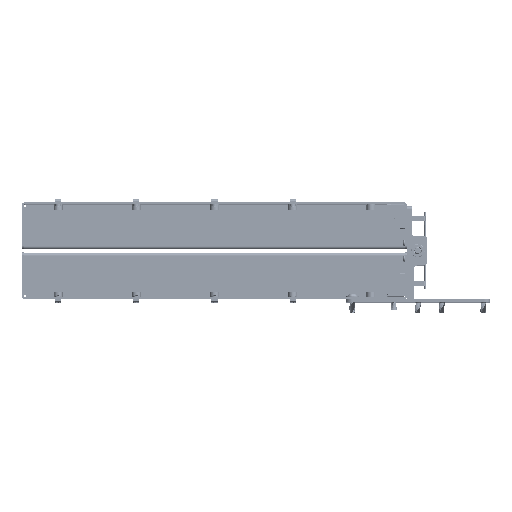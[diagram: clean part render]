
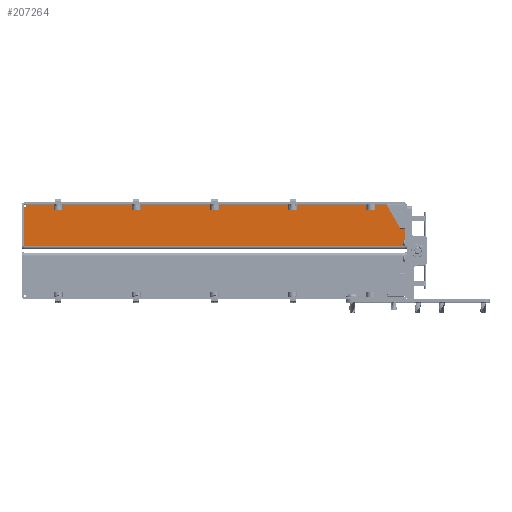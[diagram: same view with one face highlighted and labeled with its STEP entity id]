
A CAD part, top view. The second image highlights one B-rep face of the part: STEP entity #207264.
In plain terms, the highlighted planar face has unit normal (0, 0, 1).
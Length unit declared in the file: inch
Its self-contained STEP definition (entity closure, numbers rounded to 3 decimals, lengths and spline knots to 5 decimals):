
#2913 = ORIENTED_EDGE ( 'NONE', *, *, #162234, .T. ) ;
#9947 = CIRCLE ( 'NONE', #11935, 0.125 ) ;
#11111 = VERTEX_POINT ( 'NONE', #155735 ) ;
#11935 = AXIS2_PLACEMENT_3D ( 'NONE', #211654, #53029, #238163 ) ;
#14461 = CARTESIAN_POINT ( 'NONE',  ( -0.625, 2.18254, -2.4522 ) ) ;
#14703 = CARTESIAN_POINT ( 'NONE',  ( -16.19303, 3.919, -2.4522 ) ) ;
#15620 = DIRECTION ( 'NONE',  ( 0., -1., 0. ) ) ;
#15683 = DIRECTION ( 'NONE',  ( 0., 0., 1. ) ) ;
#16086 = CARTESIAN_POINT ( 'NONE',  ( -0.57, 3.794, -2.4522 ) ) ;
#19228 = DIRECTION ( 'NONE',  ( 0., -1., 0. ) ) ;
#23432 = VERTEX_POINT ( 'NONE', #26415 ) ;
#26415 = CARTESIAN_POINT ( 'NONE',  ( -0.5938, 3.919, -2.4522 ) ) ;
#28577 = CIRCLE ( 'NONE', #318724, 0.0312 ) ;
#33744 = EDGE_CURVE ( 'NONE', #194064, #251878, #322486, .T. ) ;
#34320 = LINE ( 'NONE', #281366, #167103 ) ;
#53029 = DIRECTION ( 'NONE',  ( 0., 0., 1. ) ) ;
#59649 = VERTEX_POINT ( 'NONE', #94803 ) ;
#59690 = VECTOR ( 'NONE', #226940, 39.37008 ) ;
#63314 = LINE ( 'NONE', #262843, #335991 ) ;
#64294 = ORIENTED_EDGE ( 'NONE', *, *, #275438, .T. ) ;
#65993 = CARTESIAN_POINT ( 'NONE',  ( -16.19303, 3.919, -2.4522 ) ) ;
#69865 = AXIS2_PLACEMENT_3D ( 'NONE', #204159, #98791, #283674 ) ;
#71976 = VERTEX_POINT ( 'NONE', #142439 ) ;
#72941 = VERTEX_POINT ( 'NONE', #74400 ) ;
#74400 = CARTESIAN_POINT ( 'NONE',  ( -16.01303, 3.979, -2.4522 ) ) ;
#76081 = CARTESIAN_POINT ( 'NONE',  ( -16.19303, 3.794, -2.4522 ) ) ;
#82271 = ORIENTED_EDGE ( 'NONE', *, *, #162323, .T. ) ;
#84937 = VECTOR ( 'NONE', #288001, 39.37008 ) ;
#85180 = VECTOR ( 'NONE', #92644, 39.37008 ) ;
#92644 = DIRECTION ( 'NONE',  ( 1., 0., 0. ) ) ;
#94572 = DIRECTION ( 'NONE',  ( 0., 1., 0. ) ) ;
#94803 = CARTESIAN_POINT ( 'NONE',  ( -16.06803, 3.919, -2.4522 ) ) ;
#95026 = CARTESIAN_POINT ( 'NONE',  ( -0.5938, 3.9502, -2.4522 ) ) ;
#97138 = EDGE_CURVE ( 'NONE', #71976, #72941, #295793, .T. ) ;
#98791 = DIRECTION ( 'NONE',  ( 0., 0., -1. ) ) ;
#99086 = EDGE_CURVE ( 'NONE', #23432, #262048, #143478, .T. ) ;
#101525 = ORIENTED_EDGE ( 'NONE', *, *, #270879, .T. ) ;
#103155 = CARTESIAN_POINT ( 'NONE',  ( -16.01303, 3.979, -2.4522 ) ) ;
#111145 = ORIENTED_EDGE ( 'NONE', *, *, #223282, .F. ) ;
#117815 = VERTEX_POINT ( 'NONE', #145081 ) ;
#121632 = DIRECTION ( 'NONE',  ( 0., -1., 0. ) ) ;
#123319 = AXIS2_PLACEMENT_3D ( 'NONE', #95026, #279903, #121632 ) ;
#131799 = DIRECTION ( 'NONE',  ( 0., 1., 0. ) ) ;
#140526 = VERTEX_POINT ( 'NONE', #296115 ) ;
#142439 = CARTESIAN_POINT ( 'NONE',  ( -0.625, 3.979, -2.4522 ) ) ;
#143478 = CIRCLE ( 'NONE', #123319, 0.0312 ) ;
#145081 = CARTESIAN_POINT ( 'NONE',  ( -16.04423, 3.919, -2.4522 ) ) ;
#155735 = CARTESIAN_POINT ( 'NONE',  ( -16.01303, 3.9502, -2.4522 ) ) ;
#160819 = ORIENTED_EDGE ( 'NONE', *, *, #170195, .T. ) ;
#162234 = EDGE_CURVE ( 'NONE', #72941, #11111, #34320, .T. ) ;
#162323 = EDGE_CURVE ( 'NONE', #177210, #254165, #63314, .T. ) ;
#167103 = VECTOR ( 'NONE', #307869, 39.37008 ) ;
#170195 = EDGE_CURVE ( 'NONE', #11111, #117815, #28577, .T. ) ;
#175018 = CARTESIAN_POINT ( 'NONE',  ( -0.445, 2.30254, -2.4522 ) ) ;
#177210 = VERTEX_POINT ( 'NONE', #76081 ) ;
#178164 = DIRECTION ( 'NONE',  ( 0., 0., -1. ) ) ;
#180715 = ORIENTED_EDGE ( 'NONE', *, *, #184988, .T. ) ;
#182029 = ORIENTED_EDGE ( 'NONE', *, *, #247535, .T. ) ;
#184988 = EDGE_CURVE ( 'NONE', #262048, #71976, #257521, .T. ) ;
#187388 = VECTOR ( 'NONE', #94572, 39.37008 ) ;
#188687 = ORIENTED_EDGE ( 'NONE', *, *, #33744, .T. ) ;
#194064 = VERTEX_POINT ( 'NONE', #196413 ) ;
#196413 = CARTESIAN_POINT ( 'NONE',  ( -0.445, 3.794, -2.4522 ) ) ;
#200596 = LINE ( 'NONE', #175018, #59690 ) ;
#204159 = CARTESIAN_POINT ( 'NONE',  ( -16.19303, 2.18254, -2.4522 ) ) ;
#207264 = ADVANCED_FACE ( 'NONE', ( #294745 ), #309034, .F. ) ;
#211654 = CARTESIAN_POINT ( 'NONE',  ( -16.06803, 3.794, -2.4522 ) ) ;
#216433 = VECTOR ( 'NONE', #131799, 39.37008 ) ;
#223282 = EDGE_CURVE ( 'NONE', #59649, #117815, #296044, .T. ) ;
#226940 = DIRECTION ( 'NONE',  ( 1., 0., 0. ) ) ;
#232203 = CARTESIAN_POINT ( 'NONE',  ( -0.57, 3.919, -2.4522 ) ) ;
#235859 = CARTESIAN_POINT ( 'NONE',  ( -0.445, 2.18254, -2.4522 ) ) ;
#238163 = DIRECTION ( 'NONE',  ( 0., -1., 0. ) ) ;
#241656 = EDGE_CURVE ( 'NONE', #59649, #177210, #9947, .T. ) ;
#242889 = ORIENTED_EDGE ( 'NONE', *, *, #97138, .T. ) ;
#247535 = EDGE_CURVE ( 'NONE', #254165, #140526, #200596, .T. ) ;
#251878 = VERTEX_POINT ( 'NONE', #232203 ) ;
#254165 = VERTEX_POINT ( 'NONE', #325232 ) ;
#257521 = LINE ( 'NONE', #14461, #187388 ) ;
#262048 = VERTEX_POINT ( 'NONE', #306018 ) ;
#262843 = CARTESIAN_POINT ( 'NONE',  ( -16.19303, 2.18254, -2.4522 ) ) ;
#267110 = EDGE_LOOP ( 'NONE', ( #101525, #188687, #64294, #304394, #180715, #242889, #2913, #160819, #111145, #338266, #82271, #182029 ) ) ;
#270879 = EDGE_CURVE ( 'NONE', #140526, #194064, #286517, .T. ) ;
#275438 = EDGE_CURVE ( 'NONE', #251878, #23432, #328321, .T. ) ;
#278564 = DIRECTION ( 'NONE',  ( -1., 0., 0. ) ) ;
#279903 = DIRECTION ( 'NONE',  ( 0., 0., -1. ) ) ;
#281366 = CARTESIAN_POINT ( 'NONE',  ( -16.01303, 2.18254, -2.4522 ) ) ;
#283674 = DIRECTION ( 'NONE',  ( 0., -1., 0. ) ) ;
#286517 = LINE ( 'NONE', #235859, #216433 ) ;
#288001 = DIRECTION ( 'NONE',  ( -1., 0., 0. ) ) ;
#294745 = FACE_OUTER_BOUND ( 'NONE', #267110, .T. ) ;
#294927 = AXIS2_PLACEMENT_3D ( 'NONE', #16086, #15683, #15620 ) ;
#295793 = LINE ( 'NONE', #103155, #84937 ) ;
#296044 = LINE ( 'NONE', #65993, #85180 ) ;
#296115 = CARTESIAN_POINT ( 'NONE',  ( -0.445, 2.30254, -2.4522 ) ) ;
#304394 = ORIENTED_EDGE ( 'NONE', *, *, #99086, .T. ) ;
#306018 = CARTESIAN_POINT ( 'NONE',  ( -0.625, 3.9502, -2.4522 ) ) ;
#307869 = DIRECTION ( 'NONE',  ( 0., -1., 0. ) ) ;
#309034 = PLANE ( 'NONE',  #69865 ) ;
#318724 = AXIS2_PLACEMENT_3D ( 'NONE', #335873, #178164, #19228 ) ;
#320105 = VECTOR ( 'NONE', #278564, 39.37008 ) ;
#322486 = CIRCLE ( 'NONE', #294927, 0.125 ) ;
#325232 = CARTESIAN_POINT ( 'NONE',  ( -16.19303, 2.30254, -2.4522 ) ) ;
#328321 = LINE ( 'NONE', #14703, #320105 ) ;
#335873 = CARTESIAN_POINT ( 'NONE',  ( -16.04423, 3.9502, -2.4522 ) ) ;
#335991 = VECTOR ( 'NONE', #342069, 39.37008 ) ;
#338266 = ORIENTED_EDGE ( 'NONE', *, *, #241656, .T. ) ;
#342069 = DIRECTION ( 'NONE',  ( 0., -1., 0. ) ) ;
